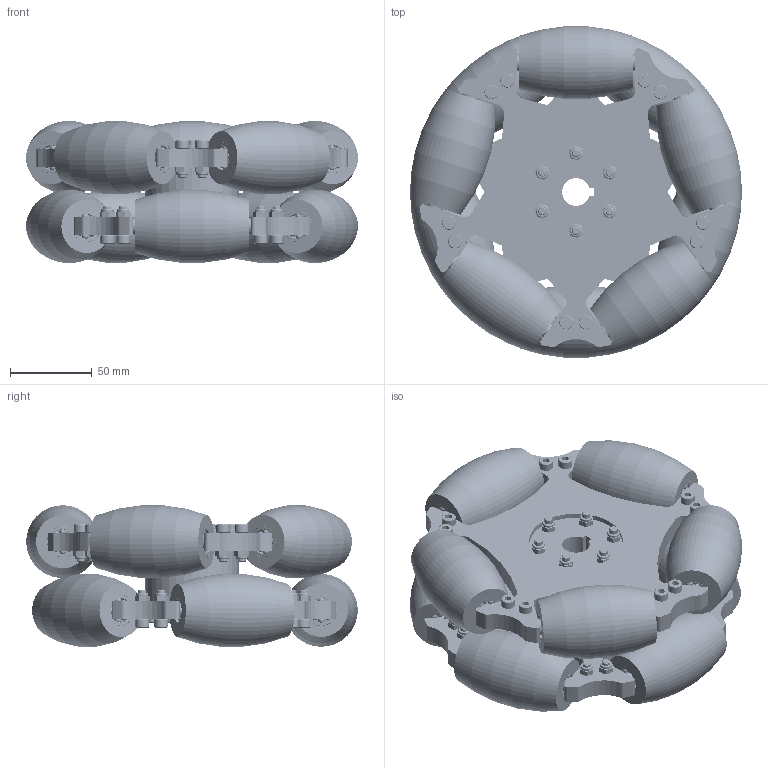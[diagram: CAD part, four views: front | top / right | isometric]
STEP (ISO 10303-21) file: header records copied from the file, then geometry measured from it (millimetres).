
FILE_DESCRIPTION (( 'STEP AP214' ), '1' );
FILE_NAME ('MO127.STEP', '2018-12-29T06:08:50', ( 'Windows 蚚誧' ), ( '' ), 'SwSTEP 2.0', 'SolidWorks 2018', '' );
FILE_SCHEMA (( 'AUTOMOTIVE_DESIGN' ));
Length unit declared in the file: millimetre
Products named in the file (13): 8寸90度5分重载型轮子-弧形轮轮芯; 8渡90僅5煦謫笢潔え; 滅侂蹟譫M5; M5す菜; MO127; 8寸90度5分轮重载型-单片组合; 8渡90僅5煦謫標啣; 囀鞠褒蹟佪(M5X20); 8寸90度5分重载型轮子-弧形轮外胶; 囀鞠褒蹟佪(M5X55); 8寸90度5分重载型轮子-连接套; 8寸90度5分重载型轮子-轮轴; 旮僱⑩粣創635
Assembly tree (73 placements, depth 3):
  MO127
    8寸90度5分轮重载型-单片组合  x2
      8寸90度5分重载型轮子-弧形轮外胶
      8渡90僅5煦謫笢潔え
      8渡90僅5煦謫標啣
      囀鞠褒蹟佪(M5X20)
      滅侂蹟譫M5
      8寸90度5分重载型轮子-弧形轮轮芯
      8寸90度5分重载型轮子-轮轴
      旮僱⑩粣創635
      M5す菜
    8寸90度5分重载型轮子-连接套
    滅侂蹟譫M5  x6
    囀鞠褒蹟佪(M5X55)  x6
Bounding box: 203.06 x 202.59 x 86.5 mm (x, y, z)
Volume: 1276964.9 mm3; surface area: 537152.4 mm2
Topology: 309 solids, 309 shells, 3318 faces, 7994 edges, 5068 vertices
Faces by surface type: cylinder 1209, plane 867, torus 592, sphere 320, cone 300, bspline 30
Entity records: 16405 total; most frequent: CARTESIAN_POINT 3863, DIRECTION 2760, ORIENTED_EDGE 2286, EDGE_CURVE 1143, AXIS2_PLACEMENT_3D 1127, VERTEX_POINT 750, CIRCLE 610, EDGE_LOOP 535
